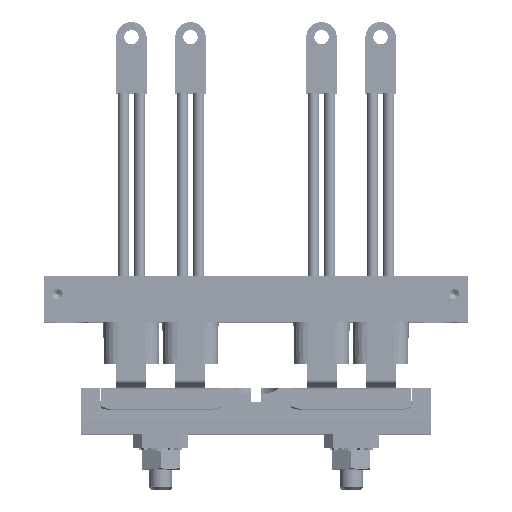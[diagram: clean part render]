
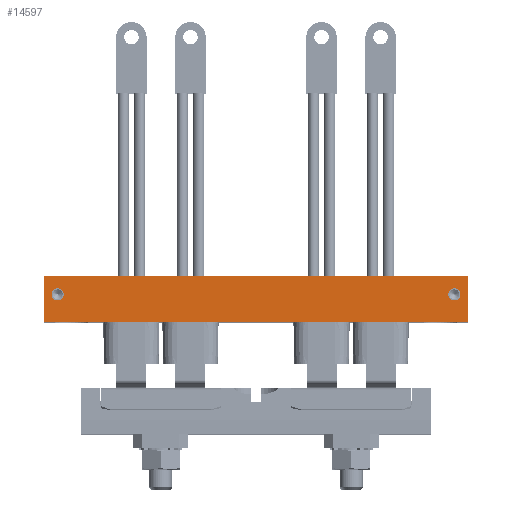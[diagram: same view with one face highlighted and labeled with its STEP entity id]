
A CAD part, top view. The second image highlights one B-rep face of the part: STEP entity #14597.
In plain terms, the highlighted planar face has unit normal (0, 0, 1) as drawn and (1, 0, 0) by its records, which use the part's own axes.
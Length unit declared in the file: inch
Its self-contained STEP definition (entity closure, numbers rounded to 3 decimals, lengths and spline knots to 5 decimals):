
#1670 = CARTESIAN_POINT ( 'NONE',  ( 4.313, 0.375, -5.4805 ) ) ;
#1839 = VECTOR ( 'NONE', #22119, 39.37008 ) ;
#2830 = CARTESIAN_POINT ( 'NONE',  ( 4.313, 0.375, -5.5625 ) ) ;
#3330 = ORIENTED_EDGE ( 'NONE', *, *, #4993, .F. ) ;
#3686 = VERTEX_POINT ( 'NONE', #1670 ) ;
#3817 = VERTEX_POINT ( 'NONE', #22800 ) ;
#3911 = DIRECTION ( 'NONE',  ( 0., 0., -1. ) ) ;
#3945 = DIRECTION ( 'NONE',  ( 1., 0., 0. ) ) ;
#3984 = EDGE_CURVE ( 'NONE', #5528, #4733, #19178, .T. ) ;
#3988 = CARTESIAN_POINT ( 'NONE',  ( 4.313, 0.375, -5.5625 ) ) ;
#4112 = LINE ( 'NONE', #23470, #9022 ) ;
#4405 = DIRECTION ( 'NONE',  ( 1., 0., 0. ) ) ;
#4733 = VERTEX_POINT ( 'NONE', #6654 ) ;
#4976 = DIRECTION ( 'NONE',  ( 0., 0., -1. ) ) ;
#4993 = EDGE_CURVE ( 'NONE', #3686, #3817, #25658, .T. ) ;
#5459 = CIRCLE ( 'NONE', #10222, 0.082 ) ;
#5528 = VERTEX_POINT ( 'NONE', #19427 ) ;
#5644 = EDGE_LOOP ( 'NONE', ( #11767, #3330 ) ) ;
#5825 = EDGE_LOOP ( 'NONE', ( #11098, #12067 ) ) ;
#5856 = EDGE_LOOP ( 'NONE', ( #13677, #9524, #15663, #16027 ) ) ;
#6654 = CARTESIAN_POINT ( 'NONE',  ( 4.313, 0.375, -0.2695 ) ) ;
#7285 = AXIS2_PLACEMENT_3D ( 'NONE', #11668, #11634, #11596 ) ;
#7848 = VECTOR ( 'NONE', #24245, 39.37008 ) ;
#8076 = CARTESIAN_POINT ( 'NONE',  ( 4.313, 0.625, 0. ) ) ;
#9022 = VECTOR ( 'NONE', #25436, 39.37008 ) ;
#9524 = ORIENTED_EDGE ( 'NONE', *, *, #20393, .F. ) ;
#10222 = AXIS2_PLACEMENT_3D ( 'NONE', #2830, #17310, #4976 ) ;
#11015 = FACE_OUTER_BOUND ( 'NONE', #5856, .T. ) ;
#11058 = FACE_BOUND ( 'NONE', #5644, .T. ) ;
#11098 = ORIENTED_EDGE ( 'NONE', *, *, #20128, .F. ) ;
#11392 = FACE_BOUND ( 'NONE', #5825, .T. ) ;
#11596 = DIRECTION ( 'NONE',  ( 0., 0., 1. ) ) ;
#11611 = AXIS2_PLACEMENT_3D ( 'NONE', #3988, #3945, #3911 ) ;
#11634 = DIRECTION ( 'NONE',  ( -1., 0., 0. ) ) ;
#11668 = CARTESIAN_POINT ( 'NONE',  ( 4.313, 0.625, 0. ) ) ;
#11767 = ORIENTED_EDGE ( 'NONE', *, *, #20282, .F. ) ;
#11799 = PLANE ( 'NONE',  #7285 ) ;
#11913 = AXIS2_PLACEMENT_3D ( 'NONE', #16813, #4405, #18785 ) ;
#12067 = ORIENTED_EDGE ( 'NONE', *, *, #3984, .F. ) ;
#12145 = VERTEX_POINT ( 'NONE', #12475 ) ;
#12475 = CARTESIAN_POINT ( 'NONE',  ( 4.313, 0., -5.75 ) ) ;
#13677 = ORIENTED_EDGE ( 'NONE', *, *, #13959, .T. ) ;
#13940 = LINE ( 'NONE', #8076, #7848 ) ;
#13959 = EDGE_CURVE ( 'NONE', #14029, #12145, #18334, .T. ) ;
#14029 = VERTEX_POINT ( 'NONE', #19145 ) ;
#14597 = ADVANCED_FACE ( 'NONE', ( #11392, #11058, #11015 ), #11799, .F. ) ;
#15663 = ORIENTED_EDGE ( 'NONE', *, *, #18432, .F. ) ;
#16027 = ORIENTED_EDGE ( 'NONE', *, *, #19873, .T. ) ;
#16362 = AXIS2_PLACEMENT_3D ( 'NONE', #20526, #20498, #20493 ) ;
#16448 = CARTESIAN_POINT ( 'NONE',  ( 4.313, 0.625, -5.75 ) ) ;
#16813 = CARTESIAN_POINT ( 'NONE',  ( 4.313, 0.375, -0.1875 ) ) ;
#17081 = LINE ( 'NONE', #20118, #1839 ) ;
#17310 = DIRECTION ( 'NONE',  ( 1., 0., 0. ) ) ;
#18096 = VECTOR ( 'NONE', #20016, 39.37008 ) ;
#18334 = LINE ( 'NONE', #20178, #18096 ) ;
#18432 = EDGE_CURVE ( 'NONE', #22558, #21907, #13940, .T. ) ;
#18785 = DIRECTION ( 'NONE',  ( 0., 0., -1. ) ) ;
#19145 = CARTESIAN_POINT ( 'NONE',  ( 4.313, 0., 0. ) ) ;
#19178 = CIRCLE ( 'NONE', #16362, 0.082 ) ;
#19427 = CARTESIAN_POINT ( 'NONE',  ( 4.313, 0.375, -0.1055 ) ) ;
#19873 = EDGE_CURVE ( 'NONE', #22558, #14029, #17081, .T. ) ;
#20016 = DIRECTION ( 'NONE',  ( 0., 0., -1. ) ) ;
#20118 = CARTESIAN_POINT ( 'NONE',  ( 4.313, 0.625, 0. ) ) ;
#20128 = EDGE_CURVE ( 'NONE', #4733, #5528, #22042, .T. ) ;
#20178 = CARTESIAN_POINT ( 'NONE',  ( 4.313, 0., 0. ) ) ;
#20282 = EDGE_CURVE ( 'NONE', #3817, #3686, #5459, .T. ) ;
#20393 = EDGE_CURVE ( 'NONE', #21907, #12145, #4112, .T. ) ;
#20493 = DIRECTION ( 'NONE',  ( 0., 0., -1. ) ) ;
#20498 = DIRECTION ( 'NONE',  ( 1., 0., 0. ) ) ;
#20526 = CARTESIAN_POINT ( 'NONE',  ( 4.313, 0.375, -0.1875 ) ) ;
#21727 = CARTESIAN_POINT ( 'NONE',  ( 4.313, 0.625, 0. ) ) ;
#21907 = VERTEX_POINT ( 'NONE', #16448 ) ;
#22042 = CIRCLE ( 'NONE', #11913, 0.082 ) ;
#22119 = DIRECTION ( 'NONE',  ( 0., -1., 0. ) ) ;
#22558 = VERTEX_POINT ( 'NONE', #21727 ) ;
#22800 = CARTESIAN_POINT ( 'NONE',  ( 4.313, 0.375, -5.6445 ) ) ;
#23470 = CARTESIAN_POINT ( 'NONE',  ( 4.313, 0.625, -5.75 ) ) ;
#24245 = DIRECTION ( 'NONE',  ( 0., 0., -1. ) ) ;
#25436 = DIRECTION ( 'NONE',  ( 0., -1., 0. ) ) ;
#25658 = CIRCLE ( 'NONE', #11611, 0.082 ) ;
